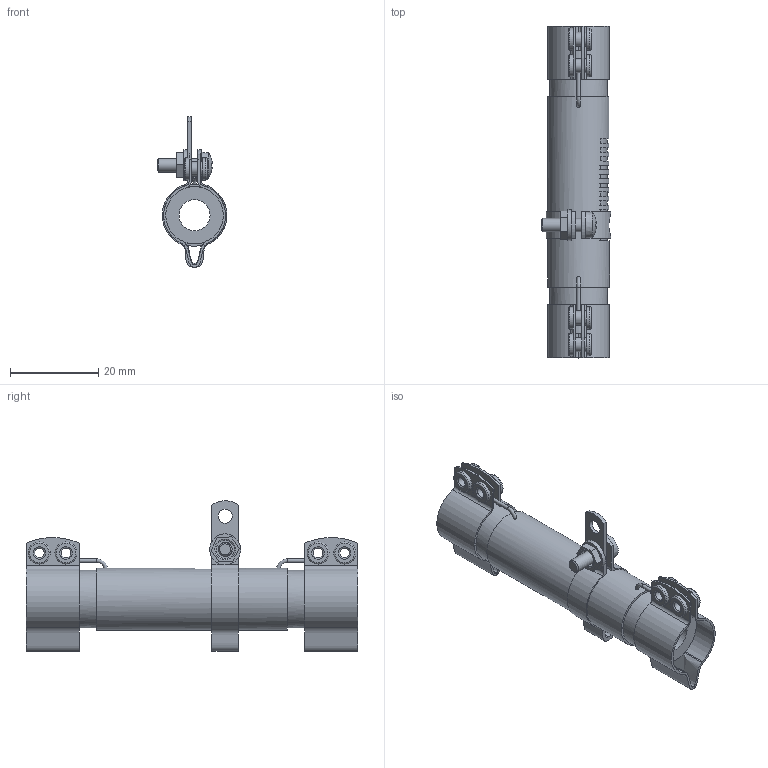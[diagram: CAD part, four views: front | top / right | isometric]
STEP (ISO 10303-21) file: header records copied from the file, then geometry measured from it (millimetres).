
FILE_DESCRIPTION(/* description */ (''),/* implementation_level */ '2;1');
FILE_NAME(/* name */ 'C:\_Vault\Dati\CATALOGO\RC-RS\RC-RS R TF\RSR TF 25.stp',/* time_stamp */ '2014-03-21T08:59:00+01:00',/* author */ ('stefano'),/* organization */ (''),/* preprocessor_version */ 'ST-DEVELOPER v15.2',/* originating_system */ 'Autodesk Inventor 2014',/* authorisation */ '');
FILE_SCHEMA (('AUTOMOTIVE_DESIGN { 1 0 10303 214 3 1 1 }'));
Length unit declared in the file: millimetre
Products named in the file (1): RSR TF 25
Bounding box: 15.75 x 75 x 34.03 mm (x, y, z)
Volume: 8139.1 mm3; surface area: 7886.9 mm2
Topology: 1 solids, 5 shells, 273 faces, 711 edges, 465 vertices
Faces by surface type: plane 137, cylinder 86, torus 19, cone 18, bspline 12, sphere 1
Full cylindrical faces by diameter (mm): 0.4 x2, 0.8 x4, 2.2 x4, 2.75 x1, 3 x1, 3.2 x11, 4.134 x1, 5 x8, 7 x2, 13 x2, 14 x1
Entity records: 9001 total; most frequent: CARTESIAN_POINT 2215, DIRECTION 1352, ORIENTED_EDGE 1258, EDGE_CURVE 629, AXIS2_PLACEMENT_3D 532, VERTEX_POINT 447, EDGE_LOOP 388, LINE 288
